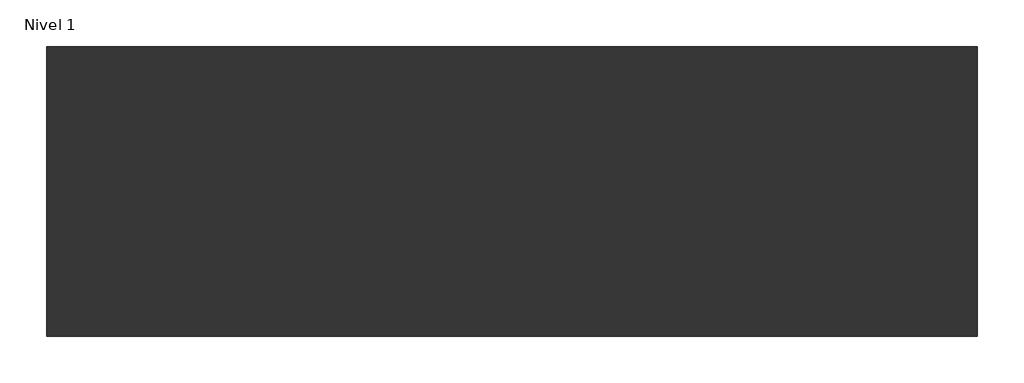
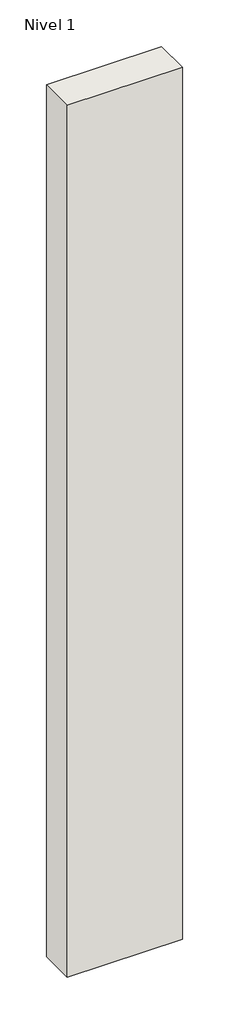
# One storey: 1 wall.
"""IFC4 building model written with IfcOpenShell, lengths in millimetres."""

from ifc_helpers import new_model, si_unit, origin, origin_with_axes, place, context, project, spatial, polyline, outline, extrude, element, save

model = new_model("IFC4")

# Units and contexts
model_context = context("Model", 3, world=origin())
ifc_project = project(units=[si_unit("LENGTHUNIT", "METRE", prefix="MILLI")], contexts=[model_context])

# Site, building, storey
site = spatial("IfcSite", under=ifc_project)
building = spatial("IfcBuilding", under=site)
storey = spatial("IfcBuildingStorey", under=building, Name="Nivel 1", Elevation=0.0)

# Wall
placement = place(None, origin())
element("IfcWall", 1, ObjectType="Panel sándwich de poliuretano + LC 1/2 pie + yeso", at=placement, inside=storey, context=model_context, shape_type="SweptSolid", body=[
    extrude(outline(polyline([(-3167.1347582, 3501.4505819), (-4167.1347582, 3501.4505819), (-4167.1347582, 3812.4505819), (-3167.1347582, 3812.4505819), (-3167.1347582, 3501.4505819)])), origin_with_axes(), (0.0, 0.0, 1.0), 8000.0),
])

save(model, "model.ifc")
